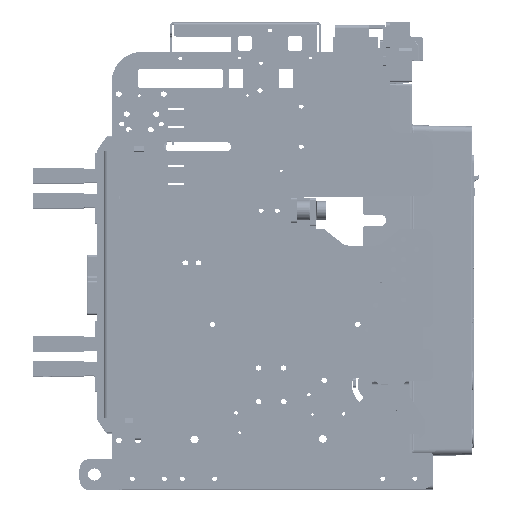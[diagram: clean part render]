
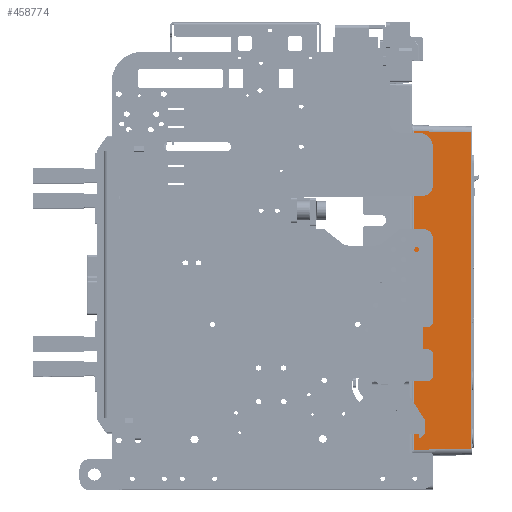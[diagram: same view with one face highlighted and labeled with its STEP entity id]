
A CAD part, top view. The second image highlights one B-rep face of the part: STEP entity #458774.
In plain terms, the highlighted planar face has unit normal (0.018, 0, 1) as drawn and (-1, 0, 0.017) by its records, which use the part's own axes.
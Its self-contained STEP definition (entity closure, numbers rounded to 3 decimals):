
#440154=DIRECTION('',(0.,-1.,0.));
#440155=VECTOR('',#440154,315.942);
#440156=CARTESIAN_POINT('',(-133.97,144.321,
108.017));
#440157=LINE('',#440156,#440155);
#440158=DIRECTION('',(0.017,0.017,1.));
#440159=VECTOR('',#440158,57.07);
#440160=CARTESIAN_POINT('',(-134.966,-172.617,
50.965));
#440161=LINE('',#440160,#440159);
#440162=DIRECTION('',(0.,1.,0.));
#440163=VECTOR('',#440162,317.934);
#440164=CARTESIAN_POINT('',(-134.966,-172.617,
50.965));
#440165=LINE('',#440164,#440163);
#440166=DIRECTION('',(-0.017,0.017,-1.));
#440167=VECTOR('',#440166,57.07);
#440168=CARTESIAN_POINT('',(-133.97,144.321,
108.017));
#440169=LINE('',#440168,#440167);
#454758=CARTESIAN_POINT('',(-133.97,144.321,
108.017));
#457749=CARTESIAN_POINT('',(-134.966,-172.617,
50.965));
#457750=CARTESIAN_POINT('',(-134.966,145.317,
50.965));
#457751=VERTEX_POINT('',#457749);
#457752=VERTEX_POINT('',#457750);
#457790=VERTEX_POINT('',#454758);
#457793=CARTESIAN_POINT('',(-133.97,-171.621,
108.017));
#457794=VERTEX_POINT('',#457793);
#458760=CARTESIAN_POINT('',(-135.,151.35,49.));
#458761=DIRECTION('',(-1.,0.,0.017));
#458762=DIRECTION('',(0.,-1.,0.));
#458763=AXIS2_PLACEMENT_3D('',#458760,#458761,#458762);
#458764=PLANE('',#458763);
#458766=ORIENTED_EDGE('',*,*,#458765,.T.);
#458768=ORIENTED_EDGE('',*,*,#458767,.F.);
#458769=ORIENTED_EDGE('',*,*,#458750,.T.);
#458771=ORIENTED_EDGE('',*,*,#458770,.F.);
#458772=EDGE_LOOP('',(#458766,#458768,#458769,#458771));
#458773=FACE_OUTER_BOUND('',#458772,.F.);
#458774=ADVANCED_FACE('',(#458773),#458764,.T.);
#458750=EDGE_CURVE('',#457751,#457752,#440165,.T.);
#458765=EDGE_CURVE('',#457790,#457794,#440157,.T.);
#458767=EDGE_CURVE('',#457751,#457794,#440161,.T.);
#458770=EDGE_CURVE('',#457790,#457752,#440169,.T.);
